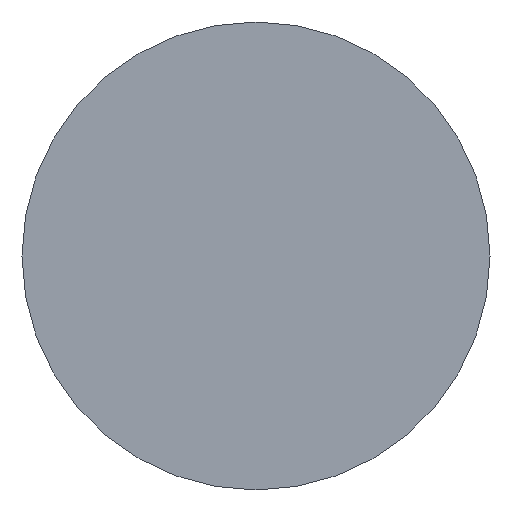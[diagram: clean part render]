
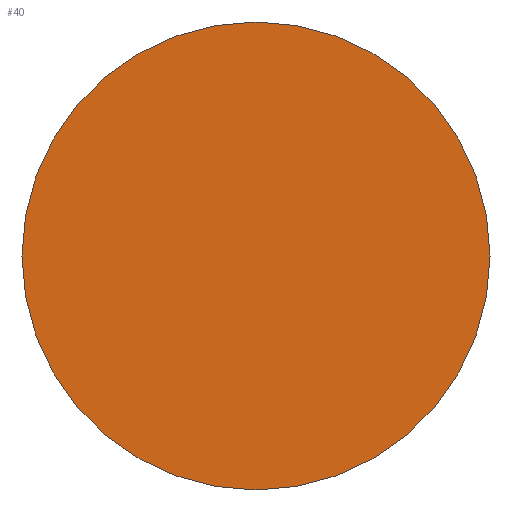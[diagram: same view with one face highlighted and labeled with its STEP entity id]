
A CAD part, top view. The second image highlights one B-rep face of the part: STEP entity #40.
In plain terms, the highlighted planar face has unit normal (0, 0, 1).
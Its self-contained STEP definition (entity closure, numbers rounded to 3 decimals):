
#40=ADVANCED_FACE('',(#83),#84,.T.);
#83=FACE_OUTER_BOUND('',#128,.T.);
#84=PLANE('',#129);
#128=EDGE_LOOP('',(#173));
#129=AXIS2_PLACEMENT_3D('',#174,#175,#176);
#173=ORIENTED_EDGE('',*,*,#218,.F.);
#174=CARTESIAN_POINT('',(-16.,0.0,0.0));
#175=DIRECTION('',(0.0,0.,1.0));
#176=DIRECTION('',(0.0,-1.0,0.));
#218=EDGE_CURVE('',#240,#240,#241,.T.);
#240=VERTEX_POINT('',#268);
#241=CIRCLE('',#269,16.);
#268=CARTESIAN_POINT('',(0.0,16.,0.));
#269=AXIS2_PLACEMENT_3D('',#296,#297,#298);
#296=CARTESIAN_POINT('',(0.0,0.0,0.0));
#297=DIRECTION('',(-0.0,0.,-1.0));
#298=DIRECTION('',(0.0,1.0,0.));
